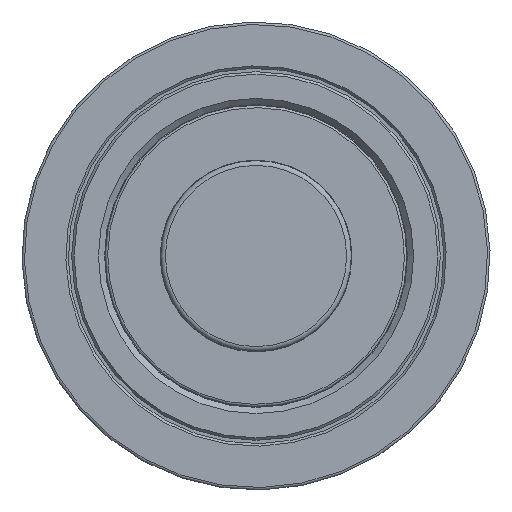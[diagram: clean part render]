
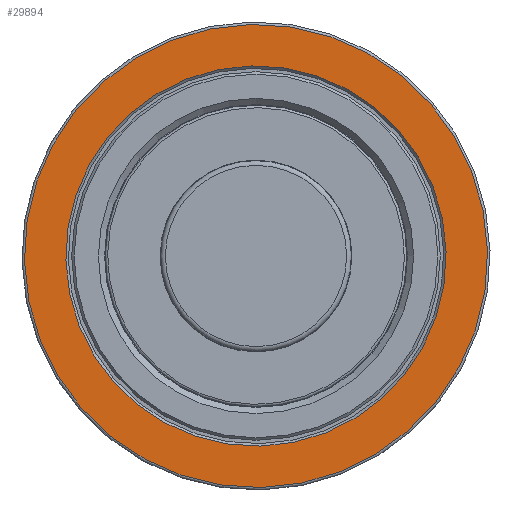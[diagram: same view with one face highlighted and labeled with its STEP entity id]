
A CAD part, front view. The second image highlights one B-rep face of the part: STEP entity #29894.
In plain terms, the highlighted planar face has unit normal (0, -1, 0).
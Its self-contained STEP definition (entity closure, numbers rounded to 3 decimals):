
#1210=PLANE('',#31615);
#1565=FACE_BOUND('',#3721,.T.);
#1724=CIRCLE('',#31614,18.85);
#1725=CIRCLE('',#31616,15.475);
#2076=FACE_OUTER_BOUND('',#3720,.T.);
#3720=EDGE_LOOP('',(#19521));
#3721=EDGE_LOOP('',(#19522));
#11801=VERTEX_POINT('',#38696);
#11802=VERTEX_POINT('',#38700);
#14878=EDGE_CURVE('',#11801,#11801,#1724,.T.);
#14879=EDGE_CURVE('',#11802,#11802,#1725,.T.);
#19521=ORIENTED_EDGE('',*,*,#14878,.F.);
#19522=ORIENTED_EDGE('',*,*,#14879,.F.);
#29894=ADVANCED_FACE('',(#2076,#1565),#1210,.T.);
#31614=AXIS2_PLACEMENT_3D('',#38698,#32698,#32699);
#31615=AXIS2_PLACEMENT_3D('',#38699,#32700,#32701);
#31616=AXIS2_PLACEMENT_3D('',#38701,#32702,#32703);
#32698=DIRECTION('center_axis',(0.,1.,0.));
#32699=DIRECTION('ref_axis',(1.,0.,0.024));
#32700=DIRECTION('center_axis',(0.,-1.,0.));
#32701=DIRECTION('ref_axis',(-0.024,0.,
1.));
#32702=DIRECTION('center_axis',(0.,-1.,0.));
#32703=DIRECTION('ref_axis',(1.,0.,0.024));
#38696=CARTESIAN_POINT('',(-0.456,-22.81,18.844));
#38698=CARTESIAN_POINT('Origin',(0.,-22.81,
0.));
#38699=CARTESIAN_POINT('Origin',(-19.044,-22.81,-0.461));
#38700=CARTESIAN_POINT('',(-15.47,-22.81,-0.374));
#38701=CARTESIAN_POINT('Origin',(0.,-22.81,
0.));
